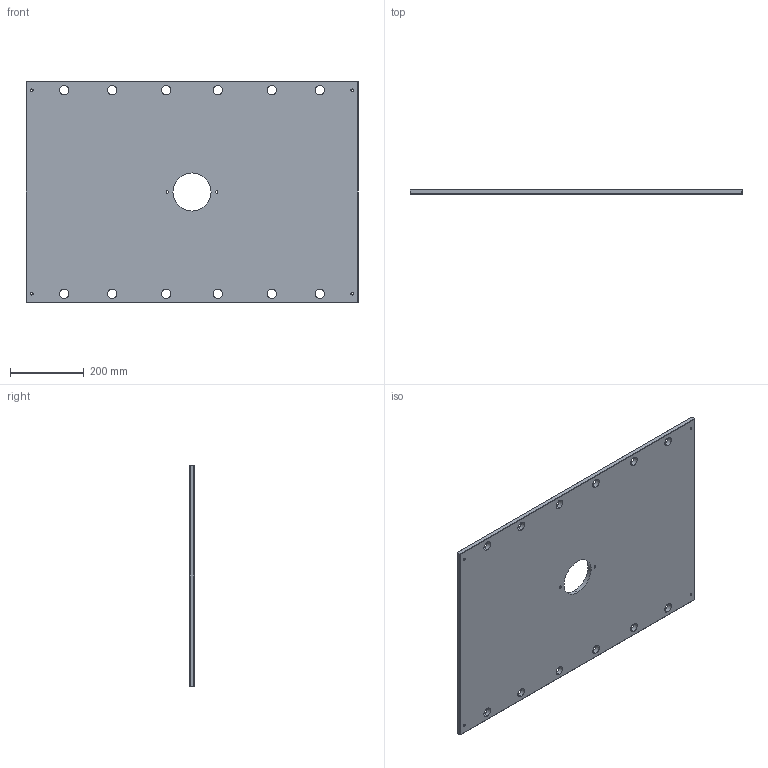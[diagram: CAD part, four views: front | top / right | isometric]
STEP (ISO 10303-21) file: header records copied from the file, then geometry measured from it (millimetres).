
FILE_DESCRIPTION (( 'STEP AP214' ), '1' );
FILE_NAME ('ME-0619-CH-2435.STEP', '2020-02-13T10:41:09', ( '' ), ( '' ), 'SwSTEP 2.0', 'SolidWorks 2018', '' );
FILE_SCHEMA (( 'AUTOMOTIVE_DESIGN' ));
Length unit declared in the file: inch
Products named in the file (1): ME-0619-CH-2435
Bounding box: 898.52 x 12.7 x 600.08 mm (x, y, z)
Volume: 6655303.8 mm3; surface area: 1100363.8 mm2
Topology: 1 solids, 1 shells, 76 faces, 186 edges, 112 vertices
Faces by surface type: cylinder 38, plane 26, cone 12
Entity records: 2346 total; most frequent: DIRECTION 428, CARTESIAN_POINT 375, ORIENTED_EDGE 372, EDGE_CURVE 186, AXIS2_PLACEMENT_3D 165, EDGE_LOOP 114, VERTEX_POINT 112, LINE 98
